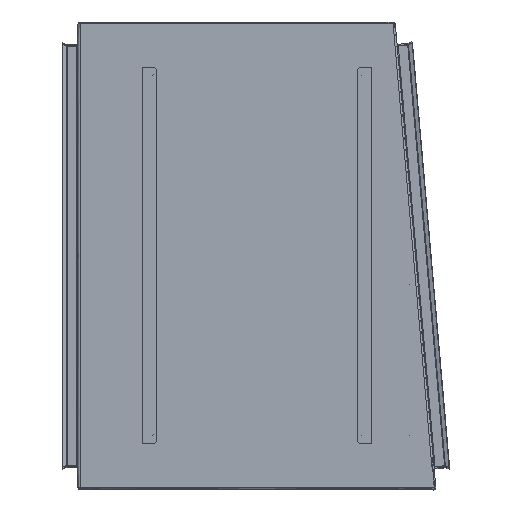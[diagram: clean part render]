
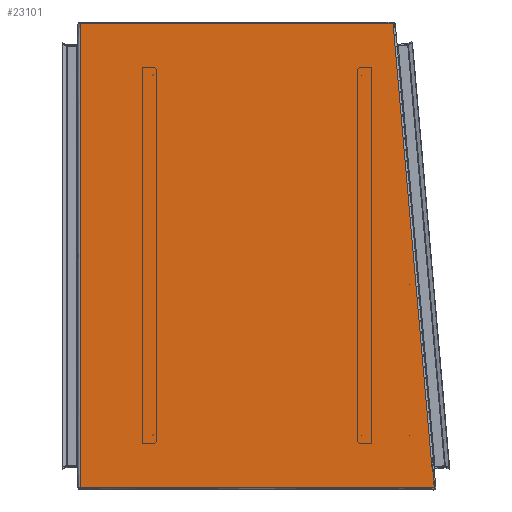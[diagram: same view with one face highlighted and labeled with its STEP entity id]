
A CAD part, top view. The second image highlights one B-rep face of the part: STEP entity #23101.
In plain terms, the highlighted free-form (B-spline) face has degree [1, 1] with [2, 2] control points.
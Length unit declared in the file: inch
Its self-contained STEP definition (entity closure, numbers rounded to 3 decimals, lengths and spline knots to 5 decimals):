
#21036=CARTESIAN_POINT('V198',(4.29303,1.14669,
   23.77636));
#21037=VERTEX_POINT('V198',#21036);
#21043=CARTESIAN_POINT('E227',(4.29303,1.14669,
   23.77636));
#21044=CARTESIAN_POINT('E227',(4.42813,1.14669,
   23.77636));
#21045=CARTESIAN_POINT('E227',(4.36058,1.02969,
   23.77636));
#21046=CARTESIAN_POINT('E227',(4.29303,0.91269,
   23.77636));
#21047=CARTESIAN_POINT('E227',(4.22548,1.02969,
   23.77636));
#21048=CARTESIAN_POINT('E227',(4.15793,1.14669,
   23.77636));
#21049=CARTESIAN_POINT('E227',(4.29303,1.14669,
   23.77636));
#21057=(BOUNDED_CURVE()B_SPLINE_CURVE(2,(#21043,#21044,#21045,
   #21046,#21047,#21048,#21049),.CIRCULAR_ARC.,.T.,.U.)
   B_SPLINE_CURVE_WITH_KNOTS((3,2,2,3),(0.0,0.33333,
   0.66667,1.0),.UNSPECIFIED.)CURVE()
   GEOMETRIC_REPRESENTATION_ITEM()RATIONAL_B_SPLINE_CURVE((1.0,
   0.5,1.0,0.5,1.0,0.5,1.0)
   )REPRESENTATION_ITEM('E227'));
#21058=EDGE_CURVE('E227',#21037,#21037,#21057,.T.);
#21105=CARTESIAN_POINT('V201',(19.54303,1.06543,
   23.77636));
#21106=VERTEX_POINT('V201',#21105);
#21112=CARTESIAN_POINT('E230',(19.54303,1.06543,
   23.77636));
#21113=CARTESIAN_POINT('E230',(19.67813,1.06543,
   23.77636));
#21114=CARTESIAN_POINT('E230',(19.61058,0.94843,
   23.77636));
#21115=CARTESIAN_POINT('E230',(19.54303,0.83143,
   23.77636));
#21116=CARTESIAN_POINT('E230',(19.47548,0.94843,
   23.77636));
#21117=CARTESIAN_POINT('E230',(19.40793,1.06543,
   23.77636));
#21118=CARTESIAN_POINT('E230',(19.54303,1.06543,
   23.77636));
#21126=(BOUNDED_CURVE()B_SPLINE_CURVE(2,(#21112,#21113,#21114,
   #21115,#21116,#21117,#21118),.CIRCULAR_ARC.,.T.,.U.)
   B_SPLINE_CURVE_WITH_KNOTS((3,2,2,3),(0.0,0.33333,
   0.66667,1.0),.UNSPECIFIED.)CURVE()
   GEOMETRIC_REPRESENTATION_ITEM()RATIONAL_B_SPLINE_CURVE((1.0,
   0.5,1.0,0.5,1.0,0.5,1.0)
   )REPRESENTATION_ITEM('E230'));
#21127=EDGE_CURVE('E230',#21106,#21106,#21126,.T.);
#21174=CARTESIAN_POINT('V200',(19.54303,10.06543,
   23.77636));
#21175=VERTEX_POINT('V200',#21174);
#21181=CARTESIAN_POINT('E229',(19.54303,10.06543,
   23.77636));
#21182=CARTESIAN_POINT('E229',(19.67813,10.06543,
   23.77636));
#21183=CARTESIAN_POINT('E229',(19.61058,9.94843,
   23.77636));
#21184=CARTESIAN_POINT('E229',(19.54303,9.83143,
   23.77636));
#21185=CARTESIAN_POINT('E229',(19.47548,9.94843,
   23.77636));
#21186=CARTESIAN_POINT('E229',(19.40793,10.06543,
   23.77636));
#21187=CARTESIAN_POINT('E229',(19.54303,10.06543,
   23.77636));
#21195=(BOUNDED_CURVE()B_SPLINE_CURVE(2,(#21181,#21182,#21183,
   #21184,#21185,#21186,#21187),.CIRCULAR_ARC.,.T.,.U.)
   B_SPLINE_CURVE_WITH_KNOTS((3,2,2,3),(0.0,0.33333,
   0.66667,1.0),.UNSPECIFIED.)CURVE()
   GEOMETRIC_REPRESENTATION_ITEM()RATIONAL_B_SPLINE_CURVE((1.0,
   0.5,1.0,0.5,1.0,0.5,1.0)
   )REPRESENTATION_ITEM('E229'));
#21196=EDGE_CURVE('E229',#21175,#21175,#21195,.T.);
#21243=CARTESIAN_POINT('V199',(4.29303,22.58129,
   23.77636));
#21244=VERTEX_POINT('V199',#21243);
#21250=CARTESIAN_POINT('E228',(4.29303,22.58129,
   23.77636));
#21251=CARTESIAN_POINT('E228',(4.42813,22.58129,
   23.77636));
#21252=CARTESIAN_POINT('E228',(4.36058,22.46429,
   23.77636));
#21253=CARTESIAN_POINT('E228',(4.29303,22.34729,
   23.77636));
#21254=CARTESIAN_POINT('E228',(4.22548,22.46429,
   23.77636));
#21255=CARTESIAN_POINT('E228',(4.15793,22.58129,
   23.77636));
#21256=CARTESIAN_POINT('E228',(4.29303,22.58129,
   23.77636));
#21264=(BOUNDED_CURVE()B_SPLINE_CURVE(2,(#21250,#21251,#21252,
   #21253,#21254,#21255,#21256),.CIRCULAR_ARC.,.T.,.U.)
   B_SPLINE_CURVE_WITH_KNOTS((3,2,2,3),(0.0,0.33333,
   0.66667,1.0),.UNSPECIFIED.)CURVE()
   GEOMETRIC_REPRESENTATION_ITEM()RATIONAL_B_SPLINE_CURVE((1.0,
   0.5,1.0,0.5,1.0,0.5,1.0)
   )REPRESENTATION_ITEM('E228'));
#21265=EDGE_CURVE('E228',#21244,#21244,#21264,.T.);
#21948=CARTESIAN_POINT('V156',(21.0137,-2.00781,
   23.77636));
#21949=VERTEX_POINT('V156',#21948);
#21957=CARTESIAN_POINT('V154',(-0.09597,-2.00781,
   23.77636));
#21958=VERTEX_POINT('V154',#21957);
#21959=CARTESIAN_POINT('E169',(21.0137,-2.00781,
   23.77636));
#21960=CARTESIAN_POINT('E169',(-0.09597,-2.00781,
   23.77636));
#21961=B_SPLINE_CURVE_WITH_KNOTS('E169',1,(#21959,#21960),
   .POLYLINE_FORM.,.F.,.U.,(2,2),(0.05527,
   0.94617),.UNSPECIFIED.);
#21962=EDGE_CURVE('E169',#21949,#21958,#21961,.T.);
#22517=CARTESIAN_POINT('V162',(18.55738,25.60912,
   23.77636));
#22518=VERTEX_POINT('V162',#22517);
#22532=CARTESIAN_POINT('V161',(20.8681,-0.80246,
   23.77636));
#22533=VERTEX_POINT('V161',#22532);
#22534=CARTESIAN_POINT('E175',(18.55738,25.60912,
   23.77636));
#22535=CARTESIAN_POINT('E175',(20.8681,-0.80246,
   23.77636));
#22536=B_SPLINE_CURVE_WITH_KNOTS('E175',1,(#22534,#22535),
   .POLYLINE_FORM.,.F.,.U.,(2,2),(0.05357,
   0.94643),.UNSPECIFIED.);
#22537=EDGE_CURVE('E175',#22518,#22533,#22536,.T.);
#22570=CARTESIAN_POINT('V197',(-0.15597,25.61429,
   23.77636));
#22571=VERTEX_POINT('V197',#22570);
#22577=CARTESIAN_POINT('V196',(-0.15597,25.61975,
   23.77636));
#22578=VERTEX_POINT('V196',#22577);
#22579=CARTESIAN_POINT('E225',(-0.15597,25.61975,
   23.77636));
#22580=CARTESIAN_POINT('E225',(-0.15597,25.61429,
   23.77636));
#22581=B_SPLINE_CURVE_WITH_KNOTS('E225',1,(#22579,#22580),
   .POLYLINE_FORM.,.F.,.U.,(2,2),(0.06991,
   0.07014),.UNSPECIFIED.);
#22582=EDGE_CURVE('E225',#22578,#22571,#22581,.T.);
#22605=CARTESIAN_POINT('V195',(18.61668,25.61975,
   23.77636));
#22606=VERTEX_POINT('V195',#22605);
#22607=CARTESIAN_POINT('E224',(18.61668,25.61975,
   23.77636));
#22608=CARTESIAN_POINT('E224',(-0.15597,25.61975,
   23.77636));
#22609=B_SPLINE_CURVE_WITH_KNOTS('E224',1,(#22607,#22608),
   .POLYLINE_FORM.,.F.,.U.,(2,2),(0.15467,
   0.94643),.UNSPECIFIED.);
#22610=EDGE_CURVE('E224',#22606,#22578,#22609,.T.);
#22633=CARTESIAN_POINT('V194',(18.61715,25.61435,
   23.77636));
#22634=VERTEX_POINT('V194',#22633);
#22635=CARTESIAN_POINT('E223',(18.61715,25.61435,
   23.77636));
#22636=CARTESIAN_POINT('E223',(18.61668,25.61975,
   23.77636));
#22637=QUASI_UNIFORM_CURVE('E223',1,(#22635,#22636),.POLYLINE_FORM.,
   .F.,.U.);
#22638=EDGE_CURVE('E223',#22634,#22606,#22637,.T.);
#22661=CARTESIAN_POINT('E222',(18.55738,25.60912,
   23.77636));
#22662=CARTESIAN_POINT('E222',(18.61715,25.61435,
   23.77636));
#22663=B_SPLINE_CURVE_WITH_KNOTS('E222',1,(#22661,#22662),
   .POLYLINE_FORM.,.F.,.U.,(2,2),(0.0458,1.0),
   .UNSPECIFIED.);
#22664=EDGE_CURVE('E222',#22518,#22634,#22663,.T.);
#23043=CARTESIAN_POINT('V193',(20.90794,-0.79898,
   23.77636));
#23044=VERTEX_POINT('V193',#23043);
#23045=CARTESIAN_POINT('E221',(20.8681,-0.80246,
   23.77636));
#23046=CARTESIAN_POINT('E221',(20.90794,-0.79898,
   23.77636));
#23047=B_SPLINE_CURVE_WITH_KNOTS('E221',1,(#23045,#23046),
   .POLYLINE_FORM.,.F.,.U.,(2,2),(0.0,0.9542),
   .UNSPECIFIED.);
#23048=EDGE_CURVE('E221',#22533,#23044,#23047,.T.);
#23058=CARTESIAN_POINT('F60',(22.28388,27.2774,
   23.77636));
#23059=CARTESIAN_POINT('F60',(-1.42615,27.2774,
   23.77636));
#23060=CARTESIAN_POINT('F60',(22.28388,-3.66546,
   23.77636));
#23061=CARTESIAN_POINT('F60',(-1.42615,-3.66546,
   23.77636));
#23062=B_SPLINE_SURFACE_WITH_KNOTS('F60',1,1,((#23058,#23060),(
   #23059,#23061)),.PLANE_SURF.,.F.,.F.,.U.,(2,2),(2,2),(0.0,1.0),
   (0.0,1.30502),.UNSPECIFIED.);
#23063=ORIENTED_EDGE('E221',*,*,#23048,.F.);
#23064=ORIENTED_EDGE('E175',*,*,#22537,.F.);
#23065=ORIENTED_EDGE('E222',*,*,#22664,.T.);
#23066=ORIENTED_EDGE('E223',*,*,#22638,.T.);
#23067=ORIENTED_EDGE('E224',*,*,#22610,.T.);
#23068=ORIENTED_EDGE('E225',*,*,#22582,.T.);
#23069=CARTESIAN_POINT('V166',(-0.09597,25.61429,
   23.77636));
#23070=VERTEX_POINT('V166',#23069);
#23071=CARTESIAN_POINT('E226',(-0.15597,25.61429,
   23.77636));
#23072=CARTESIAN_POINT('E226',(-0.09597,25.61429,
   23.77636));
#23073=B_SPLINE_CURVE_WITH_KNOTS('E226',1,(#23071,#23072),
   .POLYLINE_FORM.,.F.,.U.,(2,2),(0.94378,
   0.94631),.UNSPECIFIED.);
#23074=EDGE_CURVE('E226',#22571,#23070,#23073,.T.);
#23075=ORIENTED_EDGE('E226',*,*,#23074,.T.);
#23076=CARTESIAN_POINT('E180',(-0.09597,-2.00781,
   23.77636));
#23077=CARTESIAN_POINT('E180',(-0.09597,25.61429,
   23.77636));
#23078=B_SPLINE_CURVE_WITH_KNOTS('E180',1,(#23076,#23077),
   .POLYLINE_FORM.,.F.,.U.,(2,2),(0.05357,
   0.94531),.UNSPECIFIED.);
#23079=EDGE_CURVE('E180',#21958,#23070,#23078,.T.);
#23080=ORIENTED_EDGE('E180',*,*,#23079,.F.);
#23081=ORIENTED_EDGE('E169',*,*,#21962,.F.);
#23082=CARTESIAN_POINT('E220',(20.90794,-0.79898,
   23.77636));
#23083=CARTESIAN_POINT('E220',(21.0137,-2.00781,
   23.77636));
#23084=B_SPLINE_CURVE_WITH_KNOTS('E220',1,(#23082,#23083),
   .POLYLINE_FORM.,.F.,.U.,(2,2),(0.0458,1.0),
   .UNSPECIFIED.);
#23085=EDGE_CURVE('E220',#23044,#21949,#23084,.T.);
#23086=ORIENTED_EDGE('E220',*,*,#23085,.F.);
#23087=EDGE_LOOP('F60',(#23063,#23064,#23065,#23066,#23067,#23068,
   #23075,#23080,#23081,#23086));
#23088=FACE_OUTER_BOUND('F60',#23087,.T.);
#23089=ORIENTED_EDGE('E228',*,*,#21265,.T.);
#23090=EDGE_LOOP('F60',(#23089));
#23091=FACE_BOUND('F60',#23090,.T.);
#23092=ORIENTED_EDGE('E229',*,*,#21196,.T.);
#23093=EDGE_LOOP('F60',(#23092));
#23094=FACE_BOUND('F60',#23093,.T.);
#23095=ORIENTED_EDGE('E230',*,*,#21127,.T.);
#23096=EDGE_LOOP('F60',(#23095));
#23097=FACE_BOUND('F60',#23096,.T.);
#23098=ORIENTED_EDGE('E227',*,*,#21058,.T.);
#23099=EDGE_LOOP('F60',(#23098));
#23100=FACE_BOUND('F60',#23099,.T.);
#23101=ADVANCED_FACE('F60',(#23088,#23091,#23094,#23097,#23100),
   #23062,.T.);
